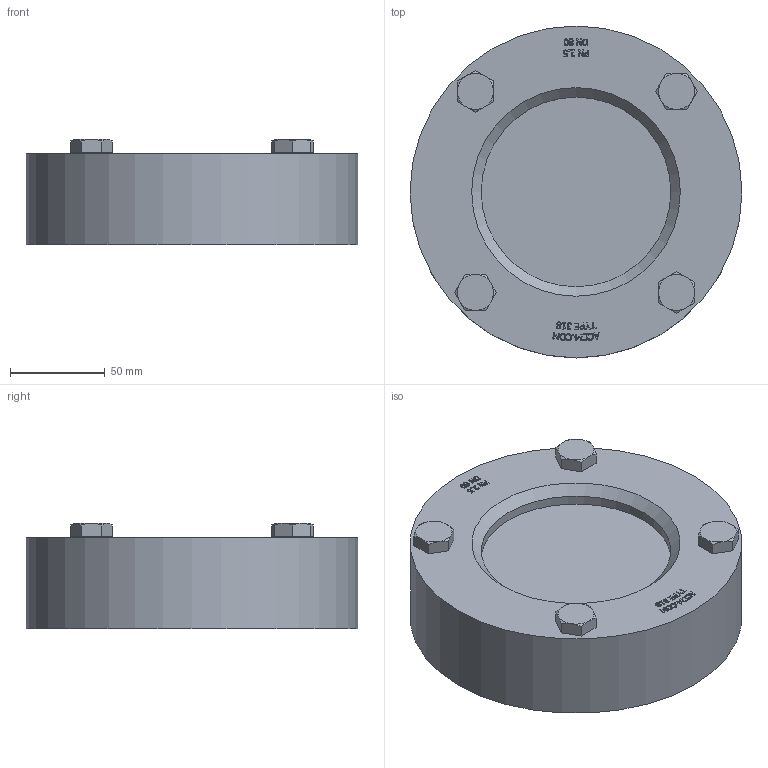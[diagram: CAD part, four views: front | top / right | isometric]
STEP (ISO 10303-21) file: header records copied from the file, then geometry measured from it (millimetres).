
FILE_DESCRIPTION(/* description */ (''),/* implementation_level */ '2;1');
FILE_NAME(/* name */ 'W:\Konstruktion_ACI\318\_STEP\ACI-318-80.stp',/* time_stamp */ '2022-03-02T18:06:24+01:00',/* author */ ('Travnicek'),/* organization */ (''),/* preprocessor_version */ 'ST-DEVELOPER v16.1',/* originating_system */ 'Autodesk Inventor 2016',/* authorisation */ '');
FILE_SCHEMA (('AUTOMOTIVE_DESIGN { 1 0 10303 214 3 1 1 }'));
Length unit declared in the file: centimetre
Products named in the file (1): ACI-318-80.stp
Bounding box: 175 x 175 x 55.5 mm (x, y, z)
Volume: 918373.7 mm3; surface area: 83736.3 mm2
Topology: 1 solids, 1 shells, 458 faces, 1205 edges, 795 vertices
Faces by surface type: plane 250, bspline 175, cone 26, cylinder 7
Full cylindrical faces by diameter (mm): 17.2 x4, 100 x2, 175 x1
Entity records: 15278 total; most frequent: CARTESIAN_POINT 4819, ORIENTED_EDGE 2390, DIRECTION 1405, EDGE_CURVE 1195, VERTEX_POINT 794, LINE 757, VECTOR 757, EDGE_LOOP 513
